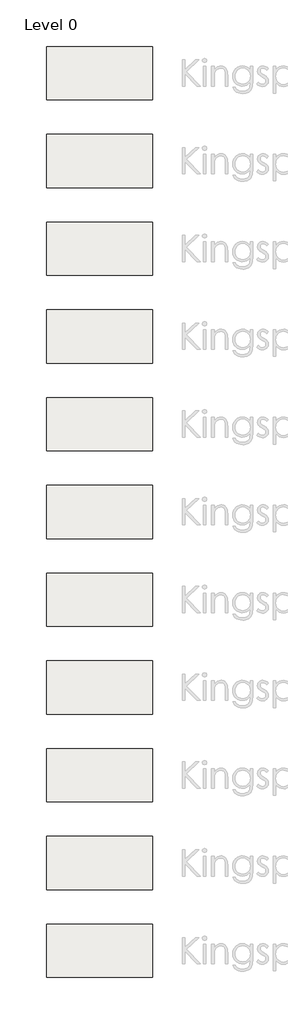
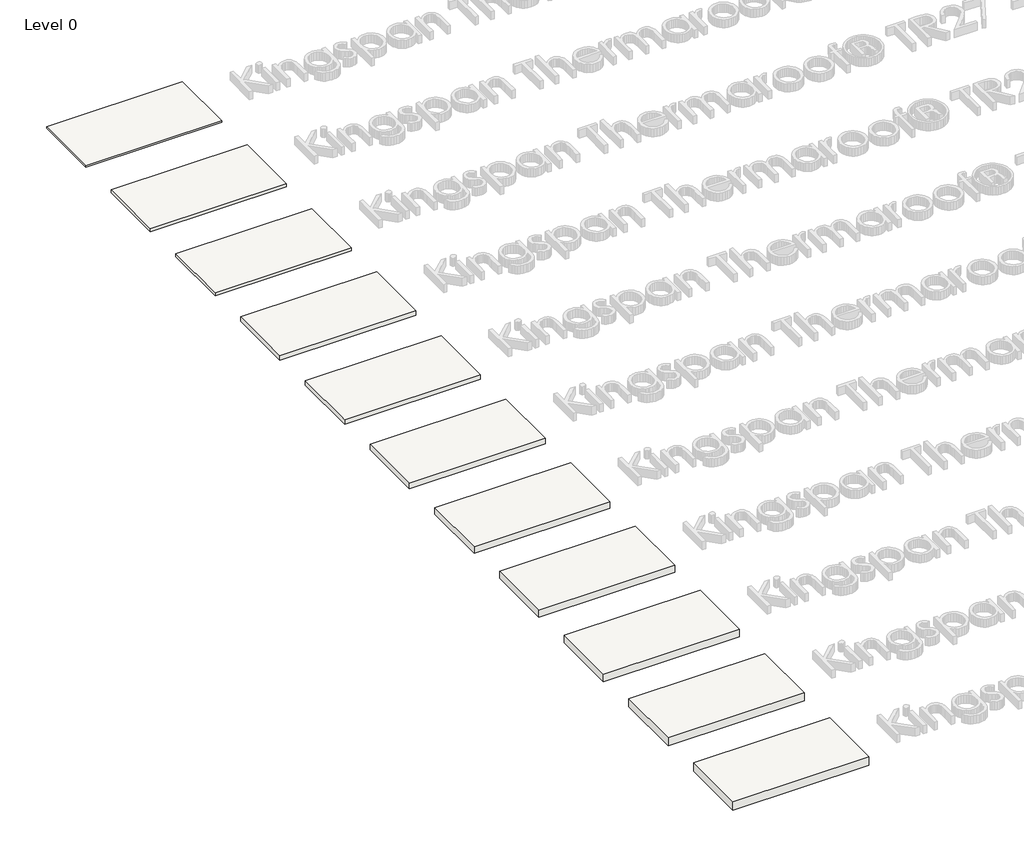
# One storey, part 1 of 12: 11 roofs.
"""IFC4 building model written with IfcOpenShell, lengths in millimetres."""

from ifc_helpers import new_model, si_unit, origin, origin_with_axes, place, context, project, spatial, polyline, outline, extrude, element, save

model = new_model("IFC4")

# Units and contexts
model_context = context("Model", 3, world=origin())
ifc_project = project(units=[si_unit("LENGTHUNIT", "METRE", prefix="MILLI")], contexts=[model_context])

# Site, building, storey
site = spatial("IfcSite", under=ifc_project)
building = spatial("IfcBuilding", under=site)
storey = spatial("IfcBuildingStorey", under=building, Name="Level 0", Elevation=0.0)

# Roofs
placement = place(None, origin())
element("IfcRoof", 1, ObjectType="Kingspan Thermaroof® TR27 - 25mm", at=placement, inside=storey, context=model_context, shape_type="SweptSolid", body=[
    extrude(outline(polyline([(-6921.4805025, 6199.9677764), (-4521.4805025, 6199.9677764), (-4521.4805025, 4999.9677764), (-6921.4805025, 4999.9677764), (-6921.4805025, 6199.9677764)])), origin_with_axes(), (0.0, 0.0, 1.0), 25.0),
])
element("IfcRoof", 2, ObjectType="Kingspan Thermaroof® TR27 - 50mm", at=placement, inside=storey, context=model_context, shape_type="SweptSolid", body=[
    extrude(outline(polyline([(-6921.4805025, 4219.967713), (-4521.4805025, 4219.967713), (-4521.4805025, 3019.967713), (-6921.4805025, 3019.967713), (-6921.4805025, 4219.967713)])), origin_with_axes(), (0.0, 0.0, 1.0), 50.0),
])
element("IfcRoof", 3, ObjectType="Kingspan Thermaroof® TR27 - 60mm", at=placement, inside=storey, context=model_context, shape_type="SweptSolid", body=[
    extrude(outline(polyline([(-6921.4805025, 2239.9676497), (-4521.4805025, 2239.9676497), (-4521.4805025, 1039.9676497), (-6921.4805025, 1039.9676497), (-6921.4805025, 2239.9676497)])), origin_with_axes(), (0.0, 0.0, 1.0), 60.0),
])
element("IfcRoof", 4, ObjectType="Kingspan Thermaroof® TR27 - 80mm", at=placement, inside=storey, context=model_context, shape_type="SweptSolid", body=[
    extrude(outline(polyline([(-6921.4805025, 259.9675863), (-4521.4805025, 259.9675863), (-4521.4805025, -940.0324137), (-6921.4805025, -940.0324137), (-6921.4805025, 259.9675863)])), origin_with_axes(), (0.0, 0.0, 1.0), 80.0),
])
element("IfcRoof", 5, ObjectType="Kingspan Thermaroof® TR27 - 90mm", at=placement, inside=storey, context=model_context, shape_type="SweptSolid", body=[
    extrude(outline(polyline([(-6921.4805025, -1720.032477), (-4521.4805025, -1720.032477), (-4521.4805025, -2920.032477), (-6921.4805025, -2920.032477), (-6921.4805025, -1720.032477)])), origin_with_axes(), (0.0, 0.0, 1.0), 90.0),
])
element("IfcRoof", 6, ObjectType="Kingspan Thermaroof® TR27 - 100mm", at=placement, inside=storey, context=model_context, shape_type="SweptSolid", body=[
    extrude(outline(polyline([(-6921.4805025, -3700.0325404), (-4521.4805025, -3700.0325404), (-4521.4805025, -4900.0325404), (-6921.4805025, -4900.0325404), (-6921.4805025, -3700.0325404)])), origin_with_axes(), (0.0, 0.0, 1.0), 100.0),
])
element("IfcRoof", 7, ObjectType="Kingspan Thermaroof® TR27 - 120mm", at=placement, inside=storey, context=model_context, shape_type="SweptSolid", body=[
    extrude(outline(polyline([(-6921.4805025, -5680.0326038), (-4521.4805025, -5680.0326038), (-4521.4805025, -6880.0326038), (-6921.4805025, -6880.0326038), (-6921.4805025, -5680.0326038)])), origin_with_axes(), (0.0, 0.0, 1.0), 120.0),
])
element("IfcRoof", 8, ObjectType="Kingspan Thermaroof® TR27 - 130mm", at=placement, inside=storey, context=model_context, shape_type="SweptSolid", body=[
    extrude(outline(polyline([(-6921.4805025, -7660.0326671), (-4521.4805025, -7660.0326671), (-4521.4805025, -8860.0326671), (-6921.4805025, -8860.0326671), (-6921.4805025, -7660.0326671)])), origin_with_axes(), (0.0, 0.0, 1.0), 130.0),
])
element("IfcRoof", 9, ObjectType="Kingspan Thermaroof® TR27 - 140mm", at=placement, inside=storey, context=model_context, shape_type="SweptSolid", body=[
    extrude(outline(polyline([(-6921.4805025, -9640.0327305), (-4521.4805025, -9640.0327305), (-4521.4805025, -10840.0327305), (-6921.4805025, -10840.0327305), (-6921.4805025, -9640.0327305)])), origin_with_axes(), (0.0, 0.0, 1.0), 140.0),
])
element("IfcRoof", 10, ObjectType="Kingspan Thermaroof® TR27 - 150mm", at=placement, inside=storey, context=model_context, shape_type="SweptSolid", body=[
    extrude(outline(polyline([(-6921.4805025, -11620.0327938), (-4521.4805025, -11620.0327938), (-4521.4805025, -12820.0327938), (-6921.4805025, -12820.0327938), (-6921.4805025, -11620.0327938)])), origin_with_axes(), (0.0, 0.0, 1.0), 150.0),
])
element("IfcRoof", 11, ObjectType="Kingspan Thermaroof® TR27 - 160mm", at=placement, inside=storey, context=model_context, shape_type="SweptSolid", body=[
    extrude(outline(polyline([(-6921.4805025, -13600.0328572), (-4521.4805025, -13600.0328572), (-4521.4805025, -14800.0328572), (-6921.4805025, -14800.0328572), (-6921.4805025, -13600.0328572)])), origin_with_axes(), (0.0, 0.0, 1.0), 160.0),
])

save(model, "model.ifc")
